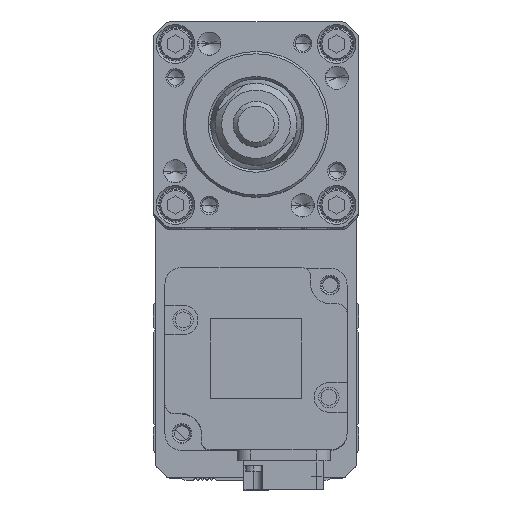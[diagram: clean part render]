
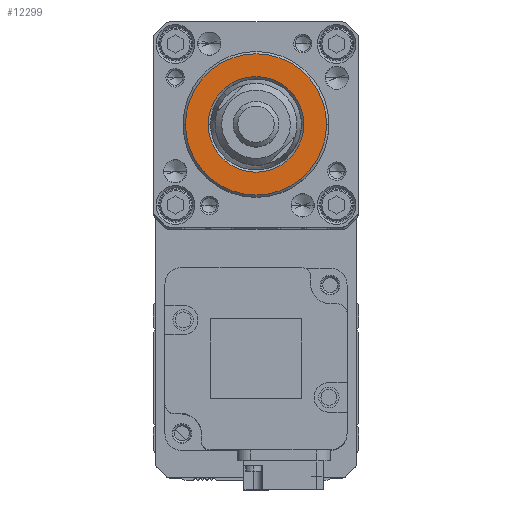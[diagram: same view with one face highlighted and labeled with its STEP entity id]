
A CAD part, top view. The second image highlights one B-rep face of the part: STEP entity #12299.
In plain terms, the highlighted planar face has unit normal (0, 0, 1).
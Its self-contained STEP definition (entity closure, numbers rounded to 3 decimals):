
#215 = EDGE_LOOP ( 'NONE', ( #31364, #11056 ) ) ;
#399 = AXIS2_PLACEMENT_3D ( 'NONE', #3026, #20602, #5538 ) ;
#1036 = EDGE_LOOP ( 'NONE', ( #19206, #17597 ) ) ;
#1437 = VERTEX_POINT ( 'NONE', #5203 ) ;
#3026 = CARTESIAN_POINT ( 'NONE',  ( 0., 0., 307. ) ) ;
#3616 = CIRCLE ( 'NONE', #22377, 10.5 ) ;
#3686 = CARTESIAN_POINT ( 'NONE',  ( 0., 0., 307. ) ) ;
#3718 = CARTESIAN_POINT ( 'NONE',  ( 0., 0., 307. ) ) ;
#5203 = CARTESIAN_POINT ( 'NONE',  ( -15.5, 0., 307. ) ) ;
#5538 = DIRECTION ( 'NONE',  ( 1., 0., 0. ) ) ;
#6195 = DIRECTION ( 'NONE',  ( 1., 0., 0. ) ) ;
#6233 = DIRECTION ( 'NONE',  ( 1., 0., 0. ) ) ;
#6810 = AXIS2_PLACEMENT_3D ( 'NONE', #24737, #9707, #27266 ) ;
#7961 = CARTESIAN_POINT ( 'NONE',  ( -10.5, 0., 307. ) ) ;
#8691 = DIRECTION ( 'NONE',  ( 0., 0., 1. ) ) ;
#9458 = EDGE_CURVE ( 'NONE', #15274, #14197, #3616, .T. ) ;
#9707 = DIRECTION ( 'NONE',  ( 0., 0., 1. ) ) ;
#10294 = CARTESIAN_POINT ( 'NONE',  ( 10.5, 0., 307. ) ) ;
#10882 = AXIS2_PLACEMENT_3D ( 'NONE', #31209, #8691, #26272 ) ;
#11056 = ORIENTED_EDGE ( 'NONE', *, *, #9458, .T. ) ;
#12299 = ADVANCED_FACE ( 'NONE', ( #15592, #32461 ), #16187, .T. ) ;
#13003 = VERTEX_POINT ( 'NONE', #20851 ) ;
#14197 = VERTEX_POINT ( 'NONE', #10294 ) ;
#15187 = AXIS2_PLACEMENT_3D ( 'NONE', #3686, #21264, #6195 ) ;
#15274 = VERTEX_POINT ( 'NONE', #7961 ) ;
#15592 = FACE_BOUND ( 'NONE', #215, .T. ) ;
#16187 = PLANE ( 'NONE',  #10882 ) ;
#17597 = ORIENTED_EDGE ( 'NONE', *, *, #23049, .T. ) ;
#18563 = EDGE_CURVE ( 'NONE', #1437, #13003, #22649, .T. ) ;
#19206 = ORIENTED_EDGE ( 'NONE', *, *, #18563, .T. ) ;
#20602 = DIRECTION ( 'NONE',  ( 0., 0., -1. ) ) ;
#20851 = CARTESIAN_POINT ( 'NONE',  ( 15.5, 0., 307. ) ) ;
#21264 = DIRECTION ( 'NONE',  ( 0., 0., 1. ) ) ;
#21298 = DIRECTION ( 'NONE',  ( 0., 0., -1. ) ) ;
#22377 = AXIS2_PLACEMENT_3D ( 'NONE', #3718, #21298, #6233 ) ;
#22382 = CIRCLE ( 'NONE', #399, 10.5 ) ;
#22649 = CIRCLE ( 'NONE', #6810, 15.5 ) ;
#23049 = EDGE_CURVE ( 'NONE', #13003, #1437, #27884, .T. ) ;
#24737 = CARTESIAN_POINT ( 'NONE',  ( 0., 0., 307. ) ) ;
#26272 = DIRECTION ( 'NONE',  ( 1., 0., 0. ) ) ;
#27086 = EDGE_CURVE ( 'NONE', #14197, #15274, #22382, .T. ) ;
#27266 = DIRECTION ( 'NONE',  ( 1., 0., 0. ) ) ;
#27884 = CIRCLE ( 'NONE', #15187, 15.5 ) ;
#31209 = CARTESIAN_POINT ( 'NONE',  ( 0., 0., 307. ) ) ;
#31364 = ORIENTED_EDGE ( 'NONE', *, *, #27086, .T. ) ;
#32461 = FACE_OUTER_BOUND ( 'NONE', #1036, .T. ) ;
